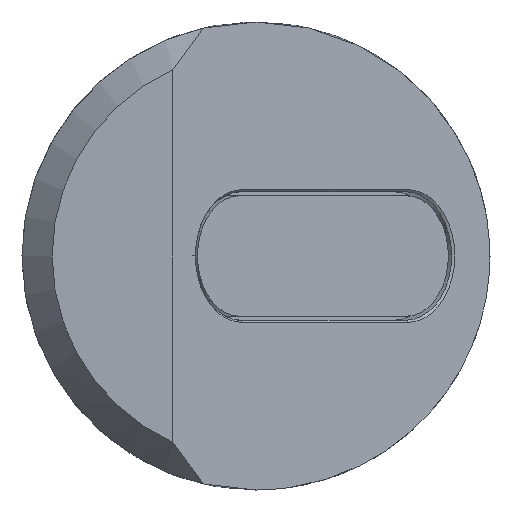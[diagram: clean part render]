
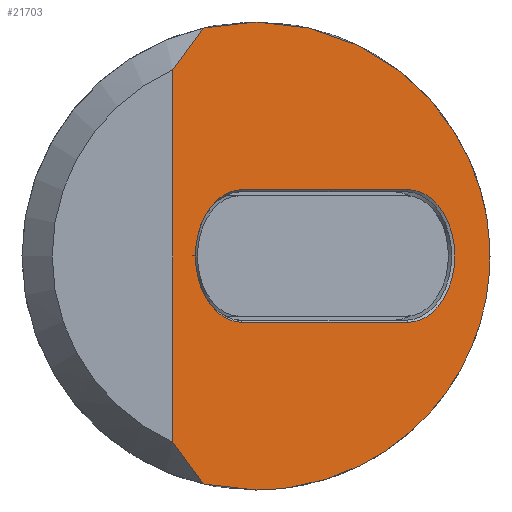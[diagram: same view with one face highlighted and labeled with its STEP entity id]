
A CAD part, left-side view. The second image highlights one B-rep face of the part: STEP entity #21703.
In plain terms, the highlighted planar face has unit normal (-0.707, -0.707, 0).
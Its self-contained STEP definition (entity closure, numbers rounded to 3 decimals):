
#197 = ORIENTED_EDGE ( 'NONE', *, *, #993, .T. ) ;
#612 = LINE ( 'NONE', #21492, #1847 ) ;
#993 = EDGE_CURVE ( 'NONE', #10318, #9345, #612, .T. ) ;
#1202 = DIRECTION ( 'NONE',  ( 0.707, 0.707, 0. ) ) ;
#1422 = CARTESIAN_POINT ( 'NONE',  ( -64.036, 0.904, 0. ) ) ;
#1847 = VECTOR ( 'NONE', #23420, 1000. ) ;
#2006 = VECTOR ( 'NONE', #14379, 1000. ) ;
#2055 = CARTESIAN_POINT ( 'NONE',  ( -66.632, 3.5, -15.1 ) ) ;
#2270 = AXIS2_PLACEMENT_3D ( 'NONE', #12941, #1202, #13203 ) ;
#2376 = EDGE_CURVE ( 'NONE', #19050, #20369, #21696, .T. ) ;
#2627 = CARTESIAN_POINT ( 'NONE',  ( -68.632, 5.5, -12.329 ) ) ;
#2761 = VERTEX_POINT ( 'NONE', #3496 ) ;
#3325 = VECTOR ( 'NONE', #10044, 1000. ) ;
#3496 = CARTESIAN_POINT ( 'NONE',  ( -68.632, 5.5, 12.329 ) ) ;
#3702 = CARTESIAN_POINT ( 'NONE',  ( -67.147, 4.015, 0. ) ) ;
#3992 = CARTESIAN_POINT ( 'NONE',  ( -67.33, 4.198, 14.221 ) ) ;
#4187 = CARTESIAN_POINT ( 'NONE',  ( -63.132, 0., -15.5 ) ) ;
#4240 = CARTESIAN_POINT ( 'NONE',  ( -68.632, 5.5, 12.329 ) ) ;
#4263 = CARTESIAN_POINT ( 'NONE',  ( -53.076, -10.056, 4.4 ) ) ;
#4497 = DIRECTION ( 'NONE',  ( 0.707, 0.707, 0. ) ) ;
#4609 = CARTESIAN_POINT ( 'NONE',  ( -68., 4.868, -13.303 ) ) ;
#5760 = ORIENTED_EDGE ( 'NONE', *, *, #7989, .F. ) ;
#5935 = CARTESIAN_POINT ( 'NONE',  ( -68., 4.868, 13.303 ) ) ;
#6283 = LINE ( 'NONE', #22038, #2006 ) ;
#6382 = CARTESIAN_POINT ( 'NONE',  ( -66.632, 3.5, -15.1 ) ) ;
#6654 =( BOUNDED_CURVE ( )  B_SPLINE_CURVE ( 3, ( #4187, #10093, #17875, #23726 ),
 .UNSPECIFIED., .F., .F. ) 
 B_SPLINE_CURVE_WITH_KNOTS ( ( 4, 4 ),
 ( 1.571, 1.799 ),
 .UNSPECIFIED. ) 
 CURVE ( )  GEOMETRIC_REPRESENTATION_ITEM ( )  RATIONAL_B_SPLINE_CURVE ( ( 1., 0.996, 0.996, 1. ) ) 
 REPRESENTATION_ITEM ( '' )  );
#6724 = ORIENTED_EDGE ( 'NONE', *, *, #2376, .T. ) ;
#6856 = ORIENTED_EDGE ( 'NONE', *, *, #13824, .F. ) ;
#6995 = AXIS2_PLACEMENT_3D ( 'NONE', #24026, #4497, #14513 ) ;
#7116 = ORIENTED_EDGE ( 'NONE', *, *, #20767, .F. ) ;
#7137 = PLANE ( 'NONE',  #21251 ) ;
#7219 = DIRECTION ( 'NONE',  ( -0.707, 0.707, 0. ) ) ;
#7297 = AXIS2_PLACEMENT_3D ( 'NONE', #1422, #18961, #16817 ) ;
#7680 = VERTEX_POINT ( 'NONE', #20608 ) ;
#7766 = CARTESIAN_POINT ( 'NONE',  ( -64.311, 1.179, 15.5 ) ) ;
#7989 = EDGE_CURVE ( 'NONE', #19141, #25054, #20016, .T. ) ;
#8052 = CARTESIAN_POINT ( 'NONE',  ( -63.132, 0., -15.5 ) ) ;
#8175 = EDGE_CURVE ( 'NONE', #9345, #19050, #10611, .T. ) ;
#8354 = FACE_BOUND ( 'NONE', #17681, .T. ) ;
#8515 = ORIENTED_EDGE ( 'NONE', *, *, #18266, .T. ) ;
#8542 = LINE ( 'NONE', #18216, #3325 ) ;
#9149 = ORIENTED_EDGE ( 'NONE', *, *, #21903, .T. ) ;
#9198 = EDGE_CURVE ( 'NONE', #20369, #17215, #6283, .T. ) ;
#9345 = VERTEX_POINT ( 'NONE', #10686 ) ;
#9483 = ORIENTED_EDGE ( 'NONE', *, *, #20374, .T. ) ;
#9556 = B_SPLINE_CURVE_WITH_KNOTS ( 'NONE', 3,
 ( #2627, #4609, #14385, #6382 ),
 .UNSPECIFIED., .F., .F.,
 ( 4, 4 ),
 ( 0., 0.004 ),
 .UNSPECIFIED. ) ;
#9754 = CARTESIAN_POINT ( 'NONE',  ( -66.632, 3.5, 15.1 ) ) ;
#10044 = DIRECTION ( 'NONE',  ( 0., 0., 1. ) ) ;
#10093 = CARTESIAN_POINT ( 'NONE',  ( -64.311, 1.179, -15.5 ) ) ;
#10185 = CARTESIAN_POINT ( 'NONE',  ( -63.132, 0., 15.5 ) ) ;
#10265 = CARTESIAN_POINT ( 'NONE',  ( -32.132, -31., -15.5 ) ) ;
#10318 = VERTEX_POINT ( 'NONE', #14729 ) ;
#10611 = CIRCLE ( 'NONE', #7297, 4.4 ) ;
#10686 = CARTESIAN_POINT ( 'NONE',  ( -64.036, 0.904, -4.4 ) ) ;
#11173 = B_SPLINE_CURVE_WITH_KNOTS ( 'NONE', 3,
 ( #15693, #3992, #5935, #4240 ),
 .UNSPECIFIED., .F., .F.,
 ( 4, 4 ),
 ( 0., 0.004 ),
 .UNSPECIFIED. ) ;
#12941 = CARTESIAN_POINT ( 'NONE',  ( -64.036, 0.904, 0. ) ) ;
#13015 = CARTESIAN_POINT ( 'NONE',  ( -68.632, 5.5, -12.329 ) ) ;
#13203 = DIRECTION ( 'NONE',  ( -0.707, 0.707, 0. ) ) ;
#13255 = FACE_OUTER_BOUND ( 'NONE', #24049, .T. ) ;
#13451 = CARTESIAN_POINT ( 'NONE',  ( -63.132, 0., -15.5 ) ) ;
#13824 = EDGE_CURVE ( 'NONE', #19115, #2761, #8542, .T. ) ;
#14379 = DIRECTION ( 'NONE',  ( 0.707, -0.707, 0. ) ) ;
#14385 = CARTESIAN_POINT ( 'NONE',  ( -67.33, 4.198, -14.221 ) ) ;
#14513 = DIRECTION ( 'NONE',  ( -0.707, 0.707, 0. ) ) ;
#14729 = CARTESIAN_POINT ( 'NONE',  ( -53.076, -10.056, -4.4 ) ) ;
#15693 = CARTESIAN_POINT ( 'NONE',  ( -66.632, 3.5, 15.1 ) ) ;
#16553 = VERTEX_POINT ( 'NONE', #2055 ) ;
#16592 = ORIENTED_EDGE ( 'NONE', *, *, #8175, .T. ) ;
#16749 = CARTESIAN_POINT ( 'NONE',  ( -63.132, 0., 15.5 ) ) ;
#16817 = DIRECTION ( 'NONE',  ( -0.707, 0.707, 0. ) ) ;
#17062 = CIRCLE ( 'NONE', #6995, 4.4 ) ;
#17215 = VERTEX_POINT ( 'NONE', #4263 ) ;
#17341 =( BOUNDED_CURVE ( )  B_SPLINE_CURVE ( 3, ( #9754, #19478, #7766, #21458 ),
 .UNSPECIFIED., .F., .F. ) 
 B_SPLINE_CURVE_WITH_KNOTS ( ( 4, 4 ),
 ( 4.485, 4.712 ),
 .UNSPECIFIED. ) 
 CURVE ( )  GEOMETRIC_REPRESENTATION_ITEM ( )  RATIONAL_B_SPLINE_CURVE ( ( 1., 0.996, 0.996, 1. ) ) 
 REPRESENTATION_ITEM ( '' )  );
#17681 = EDGE_LOOP ( 'NONE', ( #8515, #197, #16592, #6724, #20531 ) ) ;
#17875 = CARTESIAN_POINT ( 'NONE',  ( -65.483, 2.351, -15.366 ) ) ;
#18216 = CARTESIAN_POINT ( 'NONE',  ( -68.632, 5.5, -15.501 ) ) ;
#18266 = EDGE_CURVE ( 'NONE', #17215, #10318, #17062, .T. ) ;
#18936 = ORIENTED_EDGE ( 'NONE', *, *, #25278, .F. ) ;
#18961 = DIRECTION ( 'NONE',  ( 0.707, 0.707, 0. ) ) ;
#19050 = VERTEX_POINT ( 'NONE', #3702 ) ;
#19115 = VERTEX_POINT ( 'NONE', #13015 ) ;
#19141 = VERTEX_POINT ( 'NONE', #16749 ) ;
#19478 = CARTESIAN_POINT ( 'NONE',  ( -65.483, 2.351, 15.366 ) ) ;
#20016 =( BOUNDED_CURVE ( )  B_SPLINE_CURVE ( 3, ( #10185, #23657, #10265, #8052 ),
 .UNSPECIFIED., .F., .F. ) 
 B_SPLINE_CURVE_WITH_KNOTS ( ( 4, 4 ),
 ( 4.712, 7.854 ),
 .UNSPECIFIED. ) 
 CURVE ( )  GEOMETRIC_REPRESENTATION_ITEM ( )  RATIONAL_B_SPLINE_CURVE ( ( 1., 0.333, 0.333, 1. ) ) 
 REPRESENTATION_ITEM ( '' )  );
#20369 = VERTEX_POINT ( 'NONE', #22131 ) ;
#20374 = EDGE_CURVE ( 'NONE', #19115, #16553, #9556, .T. ) ;
#20531 = ORIENTED_EDGE ( 'NONE', *, *, #9198, .T. ) ;
#20608 = CARTESIAN_POINT ( 'NONE',  ( -66.632, 3.5, 15.1 ) ) ;
#20767 = EDGE_CURVE ( 'NONE', #7680, #19141, #17341, .T. ) ;
#20991 = DIRECTION ( 'NONE',  ( -0.707, -0.707, 0. ) ) ;
#21251 = AXIS2_PLACEMENT_3D ( 'NONE', #22933, #20991, #7219 ) ;
#21458 = CARTESIAN_POINT ( 'NONE',  ( -63.132, 0., 15.5 ) ) ;
#21492 = CARTESIAN_POINT ( 'NONE',  ( -64.036, 0.904, -4.4 ) ) ;
#21696 = CIRCLE ( 'NONE', #2270, 4.4 ) ;
#21703 = ADVANCED_FACE ( 'NONE', ( #8354, #13255 ), #7137, .T. ) ;
#21903 = EDGE_CURVE ( 'NONE', #7680, #2761, #11173, .T. ) ;
#22038 = CARTESIAN_POINT ( 'NONE',  ( -53.076, -10.056, 4.4 ) ) ;
#22131 = CARTESIAN_POINT ( 'NONE',  ( -64.036, 0.904, 4.4 ) ) ;
#22933 = CARTESIAN_POINT ( 'NONE',  ( -47.632, -15.5, -15.501 ) ) ;
#23420 = DIRECTION ( 'NONE',  ( -0.707, 0.707, 0. ) ) ;
#23657 = CARTESIAN_POINT ( 'NONE',  ( -32.132, -31., 15.5 ) ) ;
#23726 = CARTESIAN_POINT ( 'NONE',  ( -66.632, 3.5, -15.1 ) ) ;
#24026 = CARTESIAN_POINT ( 'NONE',  ( -53.076, -10.056, 0. ) ) ;
#24049 = EDGE_LOOP ( 'NONE', ( #7116, #9149, #6856, #9483, #18936, #5760 ) ) ;
#25054 = VERTEX_POINT ( 'NONE', #13451 ) ;
#25278 = EDGE_CURVE ( 'NONE', #25054, #16553, #6654, .T. ) ;
